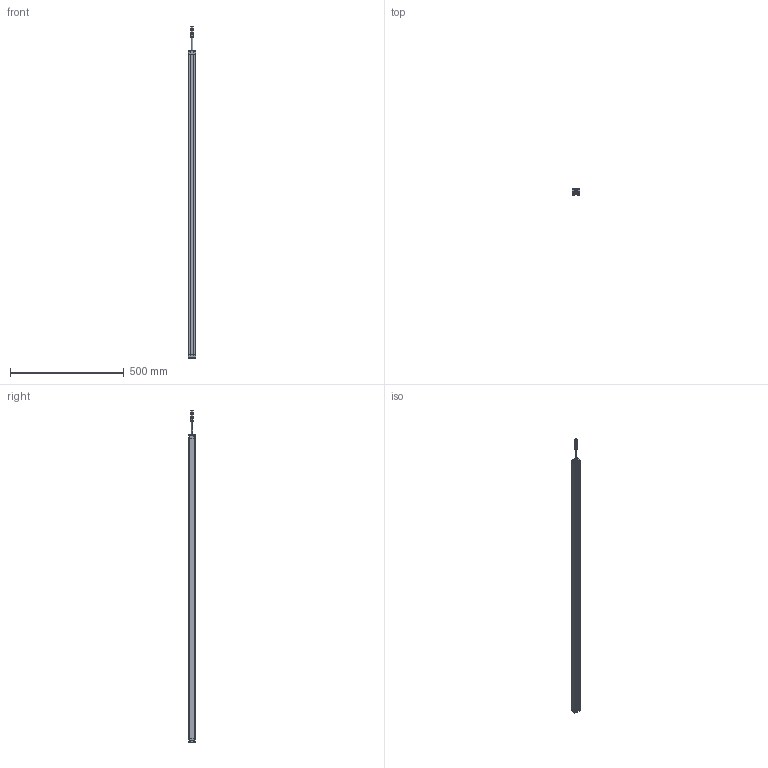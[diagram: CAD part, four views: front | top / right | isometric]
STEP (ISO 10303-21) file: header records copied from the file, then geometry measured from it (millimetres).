
FILE_DESCRIPTION((''),'2;1');
FILE_NAME('SMT1-CGQ_ASM','2025-08-08T08:44:36',('Administrator'),(''),'CREO PARAMETRIC BY PTC INC, 2016510','CREO PARAMETRIC BY PTC INC, 2016510','');
FILE_SCHEMA(('CONFIG_CONTROL_DESIGN'));
Length unit declared in the file: millimetre
Products named in the file (7): SMT1-XINGCAI-V1; SMT1-SDG-V1; SMT1-XDG-V1; M12-CHATOU; ST3X18; CT4-LVGUANGBAN; SMT1-CGQ_ASM
Assembly tree (13 placements, depth 2):
  SMT1-CGQ_ASM
    SMT1-XINGCAI-V1
    SMT1-SDG-V1
    SMT1-XDG-V1
    M12-CHATOU
    ST3X18  x8
    CT4-LVGUANGBAN
Bounding box: 33 x 28.02 x 1459.5 mm (x, y, z)
Volume: 1044294.6 mm3; surface area: 334799.7 mm2
Topology: 13 solids, 13 shells, 712 faces, 1868 edges, 1200 vertices
Faces by surface type: plane 382, cylinder 184, extrusion 86, sphere 32, cone 20, bspline 8
Entity records: 18128 total; most frequent: CARTESIAN_POINT 4347, ORIENTED_EDGE 2916, DIRECTION 2580, EDGE_CURVE 1458, VECTOR 1036, VERTEX_POINT 955, LINE 950, AXIS2_PLACEMENT_3D 772
